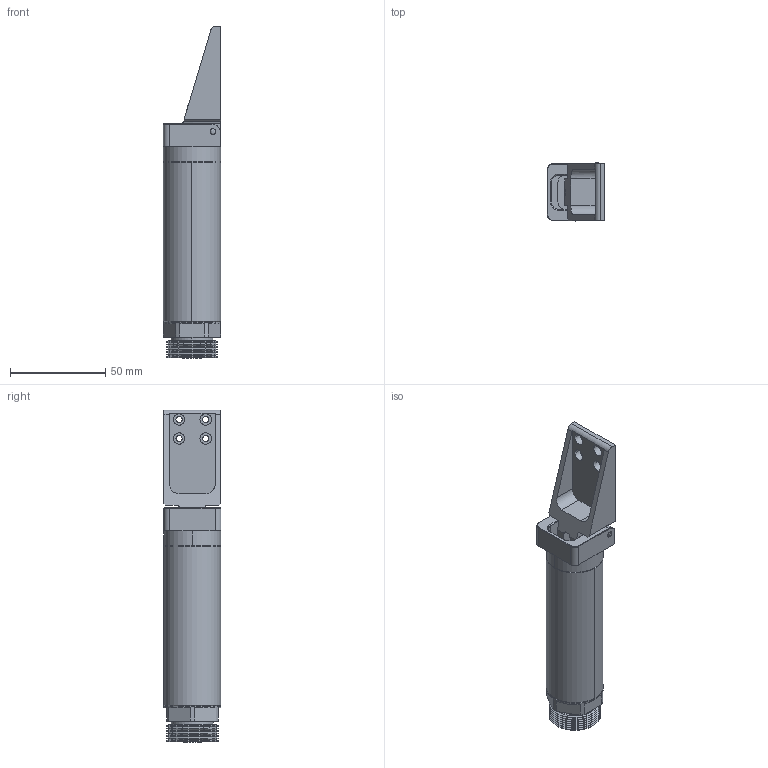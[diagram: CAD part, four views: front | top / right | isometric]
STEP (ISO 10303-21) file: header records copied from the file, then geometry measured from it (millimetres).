
FILE_DESCRIPTION (( 'STEP AP203' ), '1' );
FILE_NAME ('GFR30-95L.STEP', '2024-09-02T02:54:10', ( '微软用户' ), ( '微软中国' ), 'SwSTEP 2.0', 'SolidWorks 2018', '' );
FILE_SCHEMA (( 'CONFIG_CONTROL_DESIGN' ));
Length unit declared in the file: millimetre
Products named in the file (1): GFR30-95L
Bounding box: 30 x 30.38 x 174.5 mm (x, y, z)
Volume: 91800.7 mm3; surface area: 23799.7 mm2
Topology: 1 solids, 1 shells, 230 faces, 602 edges, 382 vertices
Faces by surface type: cylinder 90, plane 72, cone 56, bspline 12
Entity records: 7833 total; most frequent: CARTESIAN_POINT 1947, DIRECTION 1278, ORIENTED_EDGE 1204, EDGE_CURVE 602, AXIS2_PLACEMENT_3D 487, VERTEX_POINT 382, LINE 304, VECTOR 304
